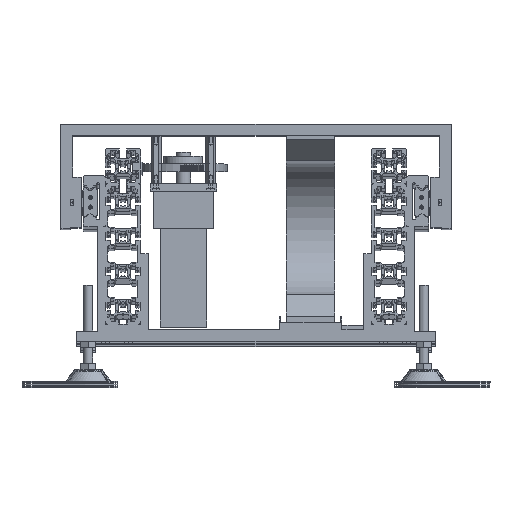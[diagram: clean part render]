
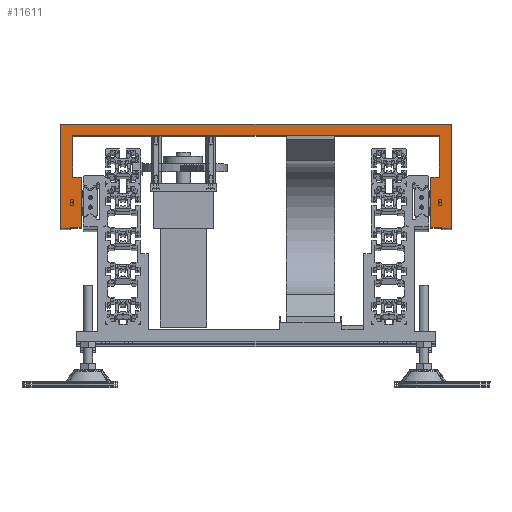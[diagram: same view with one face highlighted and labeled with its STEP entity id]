
A CAD part, top view. The second image highlights one B-rep face of the part: STEP entity #11611.
In plain terms, the highlighted planar face has unit normal (0, 0, 1).
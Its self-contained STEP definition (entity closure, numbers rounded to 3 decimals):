
#1257 = ORIENTED_EDGE ( 'NONE', *, *, #210067, .T. ) ;
#4473 = ORIENTED_EDGE ( 'NONE', *, *, #233423, .T. ) ;
#6298 = CARTESIAN_POINT ( 'NONE',  ( 256.629, 125.523, 3440.21 ) ) ;
#10661 = VERTEX_POINT ( 'NONE', #164365 ) ;
#11611 = ADVANCED_FACE ( 'NONE', ( #231303 ), #233117, .F. ) ;
#15113 = LINE ( 'NONE', #319829, #196029 ) ;
#15189 = ORIENTED_EDGE ( 'NONE', *, *, #222742, .F. ) ;
#20340 = LINE ( 'NONE', #108443, #50384 ) ;
#20498 = DIRECTION ( 'NONE',  ( 1., 0., 0. ) ) ;
#22150 = DIRECTION ( 'NONE',  ( 1., 0., 0. ) ) ;
#26223 = CARTESIAN_POINT ( 'NONE',  ( 256.629, 178.523, 3440.21 ) ) ;
#27613 = DIRECTION ( 'NONE',  ( 0., -1., 0. ) ) ;
#29201 = DIRECTION ( 'NONE',  ( 0., 1., 0. ) ) ;
#29531 = AXIS2_PLACEMENT_3D ( 'NONE', #178089, #99107, #345072 ) ;
#30733 = VECTOR ( 'NONE', #38426, 1000. ) ;
#30981 = ORIENTED_EDGE ( 'NONE', *, *, #106898, .T. ) ;
#30993 = CARTESIAN_POINT ( 'NONE',  ( 245.629, 125.523, 3440.21 ) ) ;
#34360 = VECTOR ( 'NONE', #191713, 1000. ) ;
#34492 = VERTEX_POINT ( 'NONE', #60640 ) ;
#35691 = DIRECTION ( 'NONE',  ( 0., -1., 0. ) ) ;
#38426 = DIRECTION ( 'NONE',  ( 0., 1., 0. ) ) ;
#40234 = LINE ( 'NONE', #172514, #30733 ) ;
#46189 = ORIENTED_EDGE ( 'NONE', *, *, #312774, .F. ) ;
#50384 = VECTOR ( 'NONE', #22150, 1000. ) ;
#51036 = CARTESIAN_POINT ( 'NONE',  ( -216.371, 59.023, 3440.21 ) ) ;
#55151 = LINE ( 'NONE', #279046, #134776 ) ;
#56004 = VERTEX_POINT ( 'NONE', #282448 ) ;
#60640 = CARTESIAN_POINT ( 'NONE',  ( -228.371, 193.523, 3440.21 ) ) ;
#65983 = VECTOR ( 'NONE', #105566, 1000. ) ;
#67817 = CARTESIAN_POINT ( 'NONE',  ( -213.371, 125.523, 3440.21 ) ) ;
#68615 = CARTESIAN_POINT ( 'NONE',  ( 256.629, 178.523, 3440.21 ) ) ;
#70115 = LINE ( 'NONE', #216930, #172551 ) ;
#70201 = DIRECTION ( 'NONE',  ( 1., 0., 0. ) ) ;
#76405 = LINE ( 'NONE', #103962, #100135 ) ;
#76488 = CARTESIAN_POINT ( 'NONE',  ( -228.371, 181.523, 3440.21 ) ) ;
#77966 = VERTEX_POINT ( 'NONE', #168258 ) ;
#78797 = DIRECTION ( 'NONE',  ( 0., 1., 0. ) ) ;
#82332 = EDGE_CURVE ( 'NONE', #91271, #119985, #117232, .T. ) ;
#82848 = DIRECTION ( 'NONE',  ( -1., 0., 0. ) ) ;
#84764 = CARTESIAN_POINT ( 'NONE',  ( -202.371, 60.523, 3440.21 ) ) ;
#88851 = VERTEX_POINT ( 'NONE', #30993 ) ;
#91271 = VERTEX_POINT ( 'NONE', #107664 ) ;
#91691 = VECTOR ( 'NONE', #155467, 1000. ) ;
#93797 = VECTOR ( 'NONE', #29201, 1000. ) ;
#94301 = LINE ( 'NONE', #68615, #233881 ) ;
#99107 = DIRECTION ( 'NONE',  ( 0., 0., -1. ) ) ;
#99587 = DIRECTION ( 'NONE',  ( -1., 0., 0. ) ) ;
#100135 = VECTOR ( 'NONE', #324190, 1000. ) ;
#102204 = VERTEX_POINT ( 'NONE', #138537 ) ;
#103162 = VERTEX_POINT ( 'NONE', #84764 ) ;
#103776 = CARTESIAN_POINT ( 'NONE',  ( -213.371, 181.523, 3440.21 ) ) ;
#103962 = CARTESIAN_POINT ( 'NONE',  ( 271.629, 178.523, 3440.21 ) ) ;
#105566 = DIRECTION ( 'NONE',  ( 0., 1., 0. ) ) ;
#106333 = CARTESIAN_POINT ( 'NONE',  ( 259.629, 59.023, 3440.21 ) ) ;
#106898 = EDGE_CURVE ( 'NONE', #56004, #253096, #76405, .T. ) ;
#107664 = CARTESIAN_POINT ( 'NONE',  ( 271.629, 59.023, 3440.21 ) ) ;
#108277 = EDGE_CURVE ( 'NONE', #77966, #225950, #298774, .T. ) ;
#108443 = CARTESIAN_POINT ( 'NONE',  ( 259.629, 125.523, 3440.21 ) ) ;
#109248 = LINE ( 'NONE', #103776, #65983 ) ;
#109684 = CARTESIAN_POINT ( 'NONE',  ( 245.629, 60.523, 3440.21 ) ) ;
#114969 = EDGE_CURVE ( 'NONE', #103162, #77966, #310306, .T. ) ;
#117232 = LINE ( 'NONE', #230931, #93797 ) ;
#117389 = VERTEX_POINT ( 'NONE', #67817 ) ;
#119985 = VERTEX_POINT ( 'NONE', #320268 ) ;
#130540 = ORIENTED_EDGE ( 'NONE', *, *, #335695, .F. ) ;
#133711 = ORIENTED_EDGE ( 'NONE', *, *, #114969, .F. ) ;
#134776 = VECTOR ( 'NONE', #27613, 1000. ) ;
#136164 = VECTOR ( 'NONE', #196516, 1000. ) ;
#138297 = CARTESIAN_POINT ( 'NONE',  ( 259.629, 60.523, 3440.21 ) ) ;
#138537 = CARTESIAN_POINT ( 'NONE',  ( 259.629, 59.023, 3440.21 ) ) ;
#152301 = ORIENTED_EDGE ( 'NONE', *, *, #82332, .T. ) ;
#155467 = DIRECTION ( 'NONE',  ( 0., -1., 0. ) ) ;
#160470 = CARTESIAN_POINT ( 'NONE',  ( 245.629, 60.523, 3440.21 ) ) ;
#164365 = CARTESIAN_POINT ( 'NONE',  ( -202.371, 125.523, 3440.21 ) ) ;
#165486 = CARTESIAN_POINT ( 'NONE',  ( -202.371, 60.523, 3440.21 ) ) ;
#165737 = EDGE_CURVE ( 'NONE', #119985, #34492, #206182, .T. ) ;
#167137 = CARTESIAN_POINT ( 'NONE',  ( -216.371, 125.523, 3440.21 ) ) ;
#168258 = CARTESIAN_POINT ( 'NONE',  ( -216.371, 60.523, 3440.21 ) ) ;
#170432 = EDGE_CURVE ( 'NONE', #34492, #204238, #274632, .T. ) ;
#172514 = CARTESIAN_POINT ( 'NONE',  ( 245.629, 125.523, 3440.21 ) ) ;
#172551 = VECTOR ( 'NONE', #20498, 1000. ) ;
#178089 = CARTESIAN_POINT ( 'NONE',  ( -209.371, 93.023, 3440.21 ) ) ;
#190573 = ORIENTED_EDGE ( 'NONE', *, *, #197664, .F. ) ;
#191713 = DIRECTION ( 'NONE',  ( -1., 0., 0. ) ) ;
#192650 = VECTOR ( 'NONE', #78797, 1000. ) ;
#194186 = EDGE_CURVE ( 'NONE', #204238, #225950, #70115, .T. ) ;
#196029 = VECTOR ( 'NONE', #70201, 1000. ) ;
#196516 = DIRECTION ( 'NONE',  ( 1., 0., 0. ) ) ;
#197664 = EDGE_CURVE ( 'NONE', #229257, #352937, #299844, .T. ) ;
#204238 = VERTEX_POINT ( 'NONE', #217490 ) ;
#206182 = LINE ( 'NONE', #259463, #332320 ) ;
#210067 = EDGE_CURVE ( 'NONE', #117389, #56004, #109248, .T. ) ;
#216930 = CARTESIAN_POINT ( 'NONE',  ( -213.371, 59.023, 3440.21 ) ) ;
#217490 = CARTESIAN_POINT ( 'NONE',  ( -228.371, 59.023, 3440.21 ) ) ;
#222416 = VECTOR ( 'NONE', #82848, 1000. ) ;
#222742 = EDGE_CURVE ( 'NONE', #117389, #10661, #330543, .T. ) ;
#225950 = VERTEX_POINT ( 'NONE', #235470 ) ;
#229257 = VERTEX_POINT ( 'NONE', #138297 ) ;
#230931 = CARTESIAN_POINT ( 'NONE',  ( 271.629, 178.523, 3440.21 ) ) ;
#231303 = FACE_OUTER_BOUND ( 'NONE', #267652, .T. ) ;
#233117 = PLANE ( 'NONE',  #29531 ) ;
#233423 = EDGE_CURVE ( 'NONE', #253096, #294664, #94301, .T. ) ;
#233881 = VECTOR ( 'NONE', #35691, 1000. ) ;
#235470 = CARTESIAN_POINT ( 'NONE',  ( -216.371, 59.023, 3440.21 ) ) ;
#238884 = ORIENTED_EDGE ( 'NONE', *, *, #194186, .T. ) ;
#241411 = ORIENTED_EDGE ( 'NONE', *, *, #349163, .F. ) ;
#242553 = EDGE_CURVE ( 'NONE', #352937, #88851, #40234, .T. ) ;
#249571 = ORIENTED_EDGE ( 'NONE', *, *, #242553, .F. ) ;
#253096 = VERTEX_POINT ( 'NONE', #26223 ) ;
#259463 = CARTESIAN_POINT ( 'NONE',  ( 271.629, 193.523, 3440.21 ) ) ;
#267652 = EDGE_LOOP ( 'NONE', ( #241411, #15189, #1257, #30981, #4473, #130540, #249571, #190573, #46189, #267802, #152301, #315369, #294521, #238884, #357319, #133711 ) ) ;
#267802 = ORIENTED_EDGE ( 'NONE', *, *, #358664, .T. ) ;
#273357 = LINE ( 'NONE', #106333, #192650 ) ;
#274632 = LINE ( 'NONE', #76488, #91691 ) ;
#276681 = VECTOR ( 'NONE', #304203, 1000. ) ;
#279046 = CARTESIAN_POINT ( 'NONE',  ( -202.371, 125.523, 3440.21 ) ) ;
#282448 = CARTESIAN_POINT ( 'NONE',  ( -213.371, 178.523, 3440.21 ) ) ;
#294521 = ORIENTED_EDGE ( 'NONE', *, *, #170432, .T. ) ;
#294664 = VERTEX_POINT ( 'NONE', #6298 ) ;
#298774 = LINE ( 'NONE', #51036, #276681 ) ;
#299844 = LINE ( 'NONE', #160470, #34360 ) ;
#304203 = DIRECTION ( 'NONE',  ( 0., -1., 0. ) ) ;
#310306 = LINE ( 'NONE', #165486, #222416 ) ;
#312774 = EDGE_CURVE ( 'NONE', #102204, #229257, #273357, .T. ) ;
#315369 = ORIENTED_EDGE ( 'NONE', *, *, #165737, .T. ) ;
#319829 = CARTESIAN_POINT ( 'NONE',  ( 271.629, 59.023, 3440.21 ) ) ;
#320268 = CARTESIAN_POINT ( 'NONE',  ( 271.629, 193.523, 3440.21 ) ) ;
#324190 = DIRECTION ( 'NONE',  ( 1., 0., 0. ) ) ;
#330543 = LINE ( 'NONE', #167137, #136164 ) ;
#332320 = VECTOR ( 'NONE', #99587, 1000. ) ;
#335695 = EDGE_CURVE ( 'NONE', #88851, #294664, #20340, .T. ) ;
#345072 = DIRECTION ( 'NONE',  ( 1., 0., 0. ) ) ;
#349163 = EDGE_CURVE ( 'NONE', #10661, #103162, #55151, .T. ) ;
#352937 = VERTEX_POINT ( 'NONE', #109684 ) ;
#357319 = ORIENTED_EDGE ( 'NONE', *, *, #108277, .F. ) ;
#358664 = EDGE_CURVE ( 'NONE', #102204, #91271, #15113, .T. ) ;
